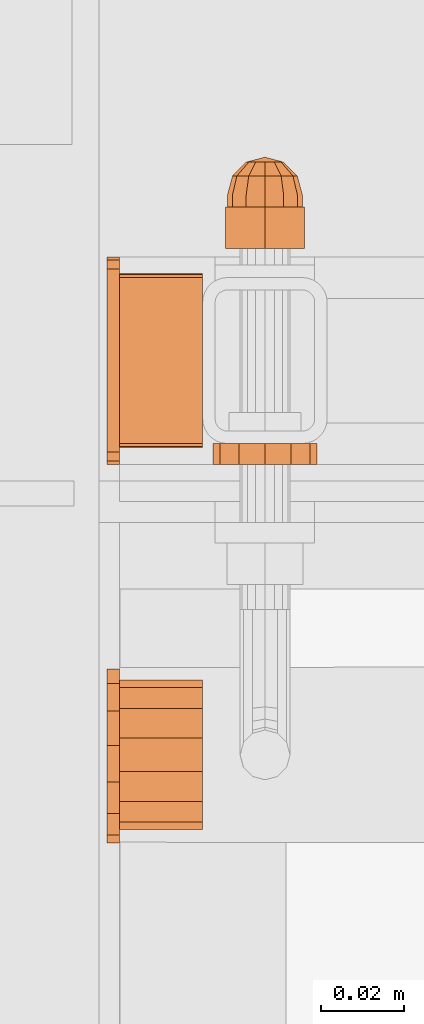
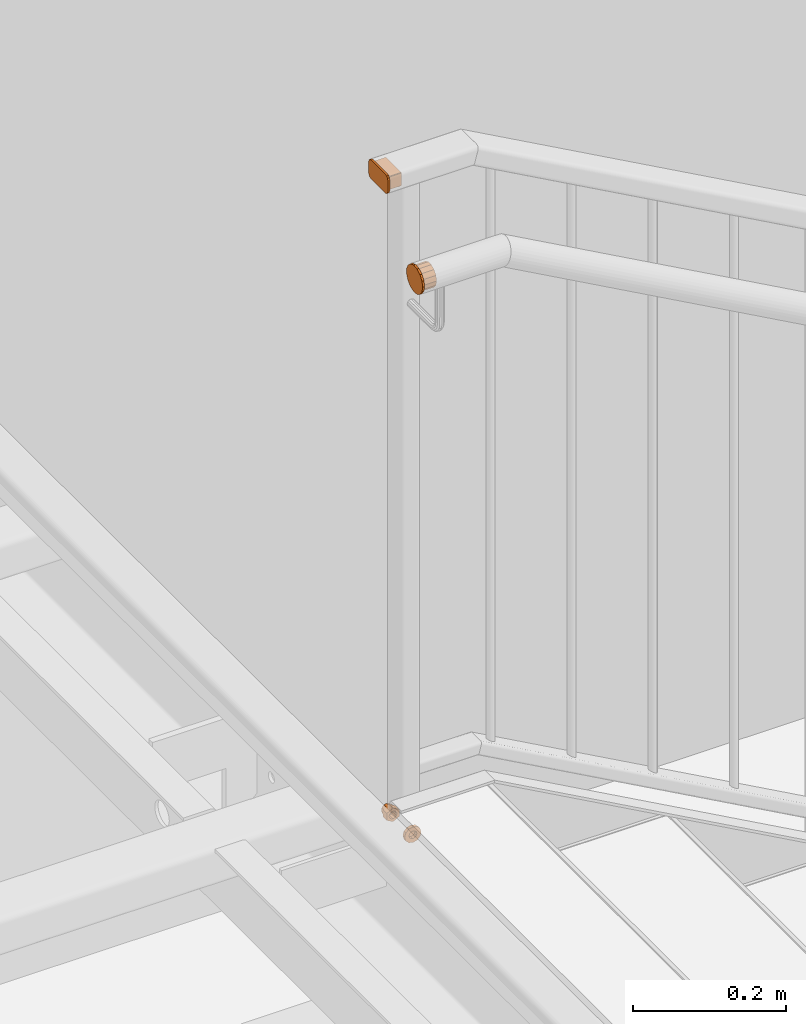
# One storey, part 105 of 116: 4 proxies.
"""IFC2X3 building model written with IfcOpenShell, lengths in millimetres."""

from ifc_helpers import new_model, entity, si_unit, converted_unit, origin_with_axes, place, context, project, spatial, faceted_brep, material, element, save


model = new_model("IFC2X3")

# Units and contexts
model_context = context("Model", 3, precision=1e-09, world=origin_with_axes())
ifc_project = project(units=[si_unit("LENGTHUNIT", "METRE", prefix="MILLI"), si_unit("AREAUNIT", "SQUARE_METRE"), si_unit("VOLUMEUNIT", "CUBIC_METRE"), converted_unit("PLANEANGLEUNIT", "DEGREE", entity("IfcPlaneAngleMeasure", 0.01745329), si_unit("PLANEANGLEUNIT", "RADIAN"), dimensions=[0, 0, 0, 0, 0, 0, 0])], contexts=[model_context])

# Site, building, storey
site_placement = place(None, origin_with_axes())
site = spatial("IfcSite", under=ifc_project, at=site_placement, Name="Site", CompositionType="ELEMENT")
building_placement = place(site_placement, origin_with_axes())
building = spatial("IfcBuilding", under=site, at=building_placement, Name="Struktur 1", CompositionType="ELEMENT")
storey_placement = place(building_placement, origin_with_axes())
storey = spatial("IfcBuildingStorey", under=building, at=storey_placement, Name="Default Storey", CompositionType="ELEMENT", Elevation=0.0)

# Proxies
ifc_material = material(Name="Kein")
proxy_1_placement = place(None, origin_with_axes())
element("IfcBuildingElementProxy", 1, at=proxy_1_placement, inside=storey, material=ifc_material, ObjectType="-", context=model_context, shape_type="Brep", body=[
    faceted_brep([(58261.049134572, 10492.357883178, -68.0), (58261.049134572, 10482.357883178, -68.0), (58261.852982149, 10482.357883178, -71.0), (58261.852982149, 10492.357883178, -71.0), (58264.049134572, 10482.357883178, -73.196152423), (58264.049134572, 10492.357883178, -73.196152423), (58261.852982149, 10492.357883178, -65.0), (58261.852982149, 10482.357883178, -65.0), (58257.569265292, 10482.357883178, -62.526794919), (58257.569265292, 10482.357883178, -73.473205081), (58267.049134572, 10482.357883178, -78.946410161), (58276.529003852, 10482.357883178, -73.473205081), (58276.529003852, 10482.357883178, -62.526794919), (58267.049134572, 10482.357883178, -57.053589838), (58264.049134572, 10482.357883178, -62.803847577), (58267.049134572, 10482.357883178, -62.0), (58270.049134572, 10482.357883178, -62.803847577), (58272.245286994, 10482.357883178, -65.0), (58273.049134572, 10482.357883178, -68.0), (58272.245286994, 10482.357883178, -71.0), (58270.049134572, 10482.357883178, -73.196152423), (58267.049134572, 10482.357883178, -74.0), (58257.569265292, 10492.357883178, -62.526794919), (58267.049134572, 10492.357883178, -57.053589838), (58276.529003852, 10492.357883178, -62.526794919), (58276.529003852, 10492.357883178, -73.473205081), (58267.049134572, 10492.357883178, -78.946410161), (58257.569265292, 10492.357883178, -73.473205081), (58264.049134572, 10492.357883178, -62.803847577), (58267.049134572, 10492.357883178, -74.0), (58267.049134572, 10492.357883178, -62.0), (58270.049134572, 10492.357883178, -73.196152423), (58270.049134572, 10492.357883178, -62.803847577), (58272.245286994, 10492.357883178, -71.0), (58272.245286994, 10492.357883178, -65.0), (58273.049134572, 10492.357883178, -68.0)], [[[0, 1, 2, 3]], [[3, 2, 4, 5]], [[1, 0, 6, 7]], [[8, 9, 10, 11, 12, 13], [7, 14, 15, 16, 17, 18, 19, 20, 21, 4, 2, 1]], [[22, 23, 24, 25, 26, 27]], [[7, 6, 28, 14]], [[22, 27, 9, 8]], [[5, 4, 21, 29]], [[10, 9, 27, 26]], [[14, 28, 30, 15]], [[23, 22, 8, 13]], [[29, 21, 20, 31]], [[11, 10, 26, 25]], [[15, 30, 32, 16]], [[24, 23, 13, 12]], [[31, 20, 19, 33]], [[25, 24, 12, 11]], [[16, 32, 34, 17]], [[33, 19, 18, 35]], [[17, 34, 35, 18]]]),
    faceted_brep([(58267.049134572, 10495.357883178, -59.0), (58267.049134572, 10492.357883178, -59.0), (58271.549134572, 10492.357883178, -60.205771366), (58271.549134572, 10495.357883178, -60.205771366), (58262.549134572, 10495.357883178, -60.205771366), (58262.549134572, 10492.357883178, -60.205771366), (58262.549134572, 10495.357883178, -75.794228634), (58259.254905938, 10495.357883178, -72.5), (58258.049134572, 10495.357883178, -68.0), (58259.254905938, 10495.357883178, -63.5), (58274.843363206, 10495.357883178, -63.5), (58276.049134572, 10495.357883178, -68.0), (58274.843363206, 10495.357883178, -72.5), (58271.549134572, 10495.357883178, -75.794228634), (58267.049134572, 10495.357883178, -77.0), (58271.549134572, 10492.357883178, -75.794228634), (58274.843363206, 10492.357883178, -72.5), (58276.049134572, 10492.357883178, -68.0), (58274.843363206, 10492.357883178, -63.5), (58259.254905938, 10492.357883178, -63.5), (58258.049134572, 10492.357883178, -68.0), (58259.254905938, 10492.357883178, -72.5), (58262.549134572, 10492.357883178, -75.794228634), (58267.049134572, 10492.357883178, -77.0)], [[[0, 1, 2, 3]], [[1, 0, 4, 5]], [[6, 7, 8, 9, 4, 0, 3, 10, 11, 12, 13, 14]], [[15, 16, 17, 18, 2, 1, 5, 19, 20, 21, 22, 23]], [[3, 2, 18, 10]], [[5, 4, 9, 19]], [[10, 18, 17, 11]], [[19, 9, 8, 20]], [[22, 6, 14, 23]], [[7, 21, 20, 8]], [[6, 22, 21, 7]], [[11, 17, 16, 12]], [[23, 14, 13, 15]], [[12, 16, 15, 13]]]),
    faceted_brep([(58260.299134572, 10499.857883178, -64.102885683), (58259.254905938, 10495.357883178, -63.5), (58262.549134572, 10495.357883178, -60.205771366), (58263.152020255, 10499.857883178, -61.25), (58271.549134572, 10495.357883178, -75.794228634), (58274.843363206, 10495.357883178, -72.5), (58276.049134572, 10495.357883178, -68.0), (58274.843363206, 10495.357883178, -63.5), (58271.549134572, 10495.357883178, -60.205771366), (58267.049134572, 10495.357883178, -59.0), (58258.049134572, 10495.357883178, -68.0), (58259.254905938, 10495.357883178, -72.5), (58262.549134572, 10495.357883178, -75.794228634), (58267.049134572, 10495.357883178, -77.0), (58267.049134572, 10499.857883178, -60.205771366), (58262.549134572, 10503.152111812, -68.0), (58259.254905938, 10499.857883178, -68.0), (58263.152020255, 10503.152111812, -65.75), (58270.946248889, 10499.857883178, -61.25), (58264.799134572, 10503.152111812, -64.102885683), (58263.152020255, 10503.152111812, -70.25), (58260.299134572, 10499.857883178, -71.897114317), (58267.049134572, 10503.152111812, -63.5), (58267.049134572, 10504.357883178, -68.0), (58264.799134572, 10503.152111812, -71.897114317), (58263.152020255, 10499.857883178, -74.75), (58267.049134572, 10499.857883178, -75.794228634), (58273.799134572, 10499.857883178, -64.102885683), (58269.299134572, 10503.152111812, -64.102885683), (58267.049134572, 10503.152111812, -72.5), (58270.946248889, 10499.857883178, -74.75), (58269.299134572, 10503.152111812, -71.897114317), (58274.843363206, 10499.857883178, -68.0), (58270.946248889, 10503.152111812, -65.75), (58273.799134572, 10499.857883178, -71.897114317), (58270.946248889, 10503.152111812, -70.25), (58271.549134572, 10503.152111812, -68.0)], [[[0, 1, 2, 3]], [[4, 5, 6, 7, 8, 9, 2, 1, 10, 11, 12, 13]], [[3, 2, 9, 14]], [[15, 16, 0, 17]], [[1, 0, 16, 10]], [[14, 9, 8, 18]], [[17, 0, 3, 19]], [[16, 15, 20, 21]], [[19, 3, 14, 22]], [[17, 23, 15]], [[24, 25, 21, 20]], [[15, 23, 20]], [[12, 25, 26, 13]], [[11, 21, 25, 12]], [[10, 16, 21, 11]], [[18, 8, 7, 27]], [[22, 14, 18, 28]], [[19, 23, 17]], [[29, 26, 25, 24]], [[20, 23, 24]], [[22, 23, 19]], [[13, 26, 30, 4]], [[26, 29, 31, 30]], [[24, 23, 29]], [[27, 7, 6, 32]], [[28, 18, 27, 33]], [[28, 23, 22]], [[29, 23, 31]], [[33, 23, 28]], [[4, 30, 34, 5]], [[30, 31, 35, 34]], [[31, 23, 35]], [[32, 6, 5, 34]], [[33, 27, 32, 36]], [[36, 23, 33]], [[35, 23, 36]], [[34, 35, 36, 32]]]),
])
proxy_2_placement = place(None, origin_with_axes())
element("IfcBuildingElementProxy", 2, at=proxy_2_placement, inside=storey, material=ifc_material, ObjectType="-", context=model_context, shape_type="Brep", body=[
    faceted_brep([(58264.049134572, 10435.357883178, -73.196152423), (58267.049134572, 10435.357883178, -74.0), (58270.049134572, 10435.357883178, -73.196152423), (58272.245286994, 10435.357883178, -71.0), (58273.049134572, 10435.357883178, -68.0), (58272.245286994, 10435.357883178, -65.0), (58270.049134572, 10435.357883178, -62.803847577), (58267.049134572, 10435.357883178, -62.0), (58264.049134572, 10435.357883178, -62.803847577), (58261.852982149, 10435.357883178, -65.0), (58261.049134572, 10435.357883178, -68.0), (58261.852982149, 10435.357883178, -71.0), (58256.223817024, 10430.357883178, -74.25), (58256.223817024, 10435.357883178, -74.25), (58260.799134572, 10435.357883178, -78.825317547), (58260.799134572, 10430.357883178, -78.825317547), (58267.049134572, 10430.357883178, -80.5), (58273.299134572, 10430.357883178, -78.825317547), (58277.874452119, 10430.357883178, -74.25), (58279.549134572, 10430.357883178, -68.0), (58277.874452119, 10430.357883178, -61.75), (58273.299134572, 10430.357883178, -57.174682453), (58267.049134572, 10430.357883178, -55.5), (58260.799134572, 10430.357883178, -57.174682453), (58256.223817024, 10430.357883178, -61.75), (58254.549134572, 10430.357883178, -68.0), (58261.049134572, 10430.357883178, -68.0), (58261.852982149, 10430.357883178, -65.0), (58264.049134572, 10430.357883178, -62.803847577), (58267.049134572, 10430.357883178, -62.0), (58270.049134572, 10430.357883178, -62.803847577), (58272.245286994, 10430.357883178, -65.0), (58273.049134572, 10430.357883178, -68.0), (58272.245286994, 10430.357883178, -71.0), (58270.049134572, 10430.357883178, -73.196152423), (58267.049134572, 10430.357883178, -74.0), (58264.049134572, 10430.357883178, -73.196152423), (58261.852982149, 10430.357883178, -71.0), (58254.549134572, 10435.357883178, -68.0), (58267.049134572, 10435.357883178, -80.5), (58256.223817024, 10435.357883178, -61.75), (58273.299134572, 10435.357883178, -78.825317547), (58260.799134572, 10435.357883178, -57.174682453), (58277.874452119, 10435.357883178, -74.25), (58267.049134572, 10435.357883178, -55.5), (58279.549134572, 10435.357883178, -68.0), (58273.299134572, 10435.357883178, -57.174682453), (58277.874452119, 10435.357883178, -61.75)], [[[0, 1, 2, 3, 4, 5, 6, 7, 8, 9, 10, 11]], [[12, 13, 14, 15]], [[12, 15, 16, 17, 18, 19, 20, 21, 22, 23, 24, 25], [26, 27, 28, 29, 30, 31, 32, 33, 34, 35, 36, 37]], [[11, 37, 36, 0]], [[13, 12, 25, 38]], [[37, 11, 10, 26]], [[0, 36, 35, 1]], [[15, 14, 39, 16]], [[38, 25, 24, 40]], [[26, 10, 9, 27]], [[1, 35, 34, 2]], [[16, 39, 41, 17]], [[40, 24, 23, 42]], [[27, 9, 8, 28]], [[33, 3, 2, 34]], [[17, 41, 43, 18]], [[3, 33, 32, 4]], [[42, 23, 22, 44]], [[28, 8, 7, 29]], [[31, 5, 4, 32]], [[18, 43, 45, 19]], [[6, 30, 29, 7]], [[5, 31, 30, 6]], [[44, 22, 21, 46]], [[19, 45, 47, 20]], [[46, 21, 20, 47]]]),
])
proxy_3_placement = place(None, origin_with_axes())
element("IfcBuildingElementProxy", 3, at=proxy_3_placement, inside=storey, material=ifc_material, ObjectType="-", context=model_context, shape_type="Brep", body=[
    faceted_brep([(58252.049134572, 10434.357883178, 971.0), (58252.049134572, 10434.357883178, 989.0), (58232.049134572, 10434.357883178, 989.0), (58232.049134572, 10434.357883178, 971.0), (58252.049134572, 10434.625832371, 990.0), (58232.049134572, 10434.625832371, 990.0), (58232.049134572, 10435.357883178, 990.732050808), (58252.049134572, 10435.357883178, 990.732050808), (58252.049134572, 10436.357883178, 991.0), (58232.049134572, 10436.357883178, 991.0), (58232.049134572, 10434.625832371, 970.0), (58252.049134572, 10434.625832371, 970.0), (58232.049134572, 10435.357883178, 969.267949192), (58252.049134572, 10435.357883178, 969.267949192), (58252.049134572, 10436.357883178, 969.0), (58252.049134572, 10474.357883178, 969.0), (58252.049134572, 10475.357883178, 969.267949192), (58252.049134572, 10476.089933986, 970.0), (58252.049134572, 10476.357883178, 971.0), (58252.049134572, 10476.357883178, 989.0), (58252.049134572, 10476.089933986, 990.0), (58252.049134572, 10475.357883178, 990.732050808), (58252.049134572, 10474.357883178, 991.0), (58252.049134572, 10438.357883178, 987.0), (58252.049134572, 10472.357883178, 987.0), (58252.049134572, 10472.357883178, 973.0), (58252.049134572, 10438.357883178, 973.0), (58232.049134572, 10474.357883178, 991.0), (58232.049134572, 10475.357883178, 990.732050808), (58232.049134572, 10476.089933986, 990.0), (58232.049134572, 10476.357883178, 989.0), (58232.049134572, 10476.357883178, 971.0), (58232.049134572, 10476.089933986, 970.0), (58232.049134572, 10475.357883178, 969.267949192), (58232.049134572, 10474.357883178, 969.0), (58232.049134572, 10436.357883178, 969.0), (58232.049134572, 10438.357883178, 987.0), (58232.049134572, 10438.357883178, 973.0), (58232.049134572, 10472.357883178, 973.0), (58232.049134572, 10472.357883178, 987.0)], [[[0, 1, 2, 3]], [[2, 1, 4, 5]], [[6, 7, 8, 9]], [[5, 4, 7, 6]], [[0, 3, 10, 11]], [[11, 10, 12, 13]], [[7, 4, 1, 0, 11, 13, 14, 15, 16, 17, 18, 19, 20, 21, 22, 8], [23, 24, 25, 26]], [[3, 2, 5, 6, 9, 27, 28, 29, 30, 31, 32, 33, 34, 35, 12, 10], [36, 37, 38, 39]], [[21, 28, 27, 22]], [[8, 22, 27, 9]], [[37, 36, 23, 26]], [[28, 21, 20, 29]], [[13, 12, 35, 14]], [[26, 25, 38, 37]], [[15, 14, 35, 34]], [[15, 34, 33, 16]], [[36, 39, 24, 23]], [[29, 20, 19, 30]], [[16, 33, 32, 17]], [[25, 24, 39, 38]], [[19, 18, 31, 30]], [[17, 32, 31, 18]]]),
    faceted_brep([(58229.049134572, 10436.357883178, 965.0), (58232.049134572, 10436.357883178, 965.0), (58232.049134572, 10433.357883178, 965.803847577), (58229.049134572, 10433.357883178, 965.803847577), (58232.049134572, 10431.161730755, 968.0), (58229.049134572, 10431.161730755, 968.0), (58232.049134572, 10474.357883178, 965.0), (58229.049134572, 10474.357883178, 965.0), (58229.049134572, 10477.357883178, 965.803847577), (58232.049134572, 10477.357883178, 965.803847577), (58229.049134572, 10479.554035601, 968.0), (58232.049134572, 10479.554035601, 968.0), (58232.049134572, 10430.357883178, 971.0), (58232.049134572, 10480.357883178, 971.0), (58232.049134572, 10480.357883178, 989.0), (58232.049134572, 10479.554035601, 992.0), (58232.049134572, 10477.357883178, 994.196152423), (58232.049134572, 10474.357883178, 995.0), (58232.049134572, 10436.357883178, 995.0), (58232.049134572, 10433.357883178, 994.196152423), (58232.049134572, 10431.161730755, 992.0), (58232.049134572, 10430.357883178, 989.0), (58229.049134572, 10480.357883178, 971.0), (58229.049134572, 10430.357883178, 971.0), (58229.049134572, 10430.357883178, 989.0), (58229.049134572, 10431.161730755, 992.0), (58229.049134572, 10433.357883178, 994.196152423), (58229.049134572, 10436.357883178, 995.0), (58229.049134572, 10474.357883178, 995.0), (58229.049134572, 10477.357883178, 994.196152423), (58229.049134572, 10479.554035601, 992.0), (58229.049134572, 10480.357883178, 989.0)], [[[0, 1, 2, 3]], [[3, 2, 4, 5]], [[6, 7, 8, 9]], [[9, 8, 10, 11]], [[12, 4, 2, 1, 6, 9, 11, 13, 14, 15, 16, 17, 18, 19, 20, 21]], [[0, 7, 6, 1]], [[22, 10, 8, 7, 0, 3, 5, 23, 24, 25, 26, 27, 28, 29, 30, 31]], [[5, 4, 12, 23]], [[12, 21, 24, 23]], [[11, 10, 22, 13]], [[19, 26, 25, 20]], [[20, 25, 24, 21]], [[26, 19, 18, 27]], [[22, 31, 14, 13]], [[18, 17, 28, 27]], [[14, 31, 30, 15]], [[16, 29, 28, 17]], [[15, 30, 29, 16]]]),
])
proxy_4_placement = place(None, origin_with_axes())
element("IfcBuildingElementProxy", 4, at=proxy_4_placement, inside=storey, material=ifc_material, ObjectType="-", context=model_context, shape_type="Brep", body=[
    faceted_brep([(58232.049134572, 10339.157883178, 873.790663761), (58232.049134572, 10340.990719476, 882.413480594), (58229.049134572, 10340.990719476, 882.413480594), (58229.049134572, 10339.157883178, 873.790663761), (58232.049134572, 10370.957883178, 855.430925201), (58232.049134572, 10377.509043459, 861.329616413), (58232.049134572, 10381.094612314, 869.382935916), (58232.049134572, 10381.094612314, 878.198391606), (58232.049134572, 10377.509043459, 886.25171111), (58232.049134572, 10370.957883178, 892.150402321), (58232.049134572, 10362.573886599, 894.874527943), (58232.049134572, 10353.806722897, 893.953061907), (58232.049134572, 10346.172314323, 889.545334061), (58232.049134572, 10340.990719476, 865.167846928), (58232.049134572, 10346.172314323, 858.035993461), (58232.049134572, 10353.806722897, 853.628265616), (58232.049134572, 10362.573886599, 852.706799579), (58229.049134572, 10340.990719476, 865.167846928), (58229.049134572, 10346.172314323, 889.545334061), (58229.049134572, 10377.509043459, 886.25171111), (58229.049134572, 10381.094612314, 878.198391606), (58229.049134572, 10381.094612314, 869.382935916), (58229.049134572, 10377.509043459, 861.329616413), (58229.049134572, 10370.957883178, 855.430925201), (58229.049134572, 10362.573886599, 852.706799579), (58229.049134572, 10353.806722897, 853.628265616), (58229.049134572, 10346.172314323, 858.035993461), (58229.049134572, 10353.806722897, 893.953061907), (58229.049134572, 10362.573886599, 894.874527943), (58229.049134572, 10370.957883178, 892.150402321)], [[[0, 1, 2, 3]], [[4, 5, 6, 7, 8, 9, 10, 11, 12, 1, 0, 13, 14, 15, 16]], [[3, 17, 13, 0]], [[1, 12, 18, 2]], [[19, 20, 21, 22, 23, 24, 25, 26, 17, 3, 2, 18, 27, 28, 29]], [[17, 26, 14, 13]], [[12, 11, 27, 18]], [[26, 25, 15, 14]], [[11, 10, 28, 27]], [[25, 24, 16, 15]], [[10, 9, 29, 28]], [[6, 5, 22, 21]], [[24, 23, 4, 16]], [[9, 8, 19, 29]], [[21, 20, 7, 6]], [[8, 7, 20, 19]], [[5, 4, 23, 22]]]),
    faceted_brep([(58252.049134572, 10364.363259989, 856.241961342), (58252.049134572, 10371.580699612, 859.717697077), (58252.049134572, 10376.5753228, 865.980756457), (58252.049134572, 10378.357883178, 873.790663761), (58252.049134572, 10376.5753228, 881.600571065), (58252.049134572, 10371.580699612, 887.863630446), (58252.049134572, 10364.363259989, 891.33936618), (58252.049134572, 10356.352506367, 891.33936618), (58252.049134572, 10349.135066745, 887.863630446), (58252.049134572, 10344.140443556, 881.600571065), (58252.049134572, 10342.357883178, 873.790663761), (58252.049134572, 10344.140443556, 865.980756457), (58252.049134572, 10349.135066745, 859.717697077), (58252.049134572, 10356.352506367, 856.241961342), (58252.049134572, 10373.639723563, 866.81981618), (58252.049134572, 10368.878854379, 861.445905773), (58252.049134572, 10362.165933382, 858.90003065), (58252.049134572, 10355.038809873, 859.765420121), (58252.049134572, 10349.130221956, 863.843823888), (58252.049134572, 10345.793755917, 870.200928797), (58252.049134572, 10345.793755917, 877.380398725), (58252.049134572, 10349.130221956, 883.737503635), (58252.049134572, 10355.038809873, 887.815907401), (58252.049134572, 10362.165933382, 888.681296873), (58252.049134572, 10368.878854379, 886.13542175), (58252.049134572, 10373.639723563, 880.761511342), (58252.049134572, 10375.357883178, 873.790663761), (58232.049134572, 10364.363259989, 856.241961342), (58232.049134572, 10371.580699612, 859.717697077), (58232.049134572, 10362.165933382, 858.90003065), (58232.049134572, 10368.878854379, 861.445905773), (58232.049134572, 10378.357883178, 873.790663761), (58232.049134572, 10376.5753228, 865.980756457), (58232.049134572, 10356.352506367, 856.241961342), (58232.049134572, 10349.135066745, 859.717697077), (58232.049134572, 10344.140443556, 865.980756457), (58232.049134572, 10342.357883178, 873.790663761), (58232.049134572, 10344.140443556, 881.600571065), (58232.049134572, 10349.135066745, 887.863630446), (58232.049134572, 10356.352506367, 891.33936618), (58232.049134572, 10364.363259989, 891.33936618), (58232.049134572, 10371.580699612, 887.863630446), (58232.049134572, 10376.5753228, 881.600571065), (58232.049134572, 10373.639723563, 866.81981618), (58232.049134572, 10375.357883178, 873.790663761), (58232.049134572, 10373.639723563, 880.761511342), (58232.049134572, 10368.878854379, 886.13542175), (58232.049134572, 10362.165933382, 888.681296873), (58232.049134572, 10355.038809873, 887.815907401), (58232.049134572, 10349.130221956, 883.737503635), (58232.049134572, 10345.793755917, 877.380398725), (58232.049134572, 10345.793755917, 870.200928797), (58232.049134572, 10349.130221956, 863.843823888), (58232.049134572, 10355.038809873, 859.765420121)], [[[0, 1, 2, 3, 4, 5, 6, 7, 8, 9, 10, 11, 12, 13], [14, 15, 16, 17, 18, 19, 20, 21, 22, 23, 24, 25, 26]], [[0, 27, 28, 1]], [[29, 16, 15, 30]], [[31, 32, 28, 27, 33, 34, 35, 36, 37, 38, 39, 40, 41, 42], [43, 44, 45, 46, 47, 48, 49, 50, 51, 52, 53, 29, 30]], [[27, 0, 13, 33]], [[16, 29, 53, 17]], [[32, 2, 1, 28]], [[30, 15, 14, 43]], [[2, 32, 31, 3]], [[33, 13, 12, 34]], [[17, 53, 52, 18]], [[3, 31, 42, 4]], [[43, 14, 26, 44]], [[34, 12, 11, 35]], [[18, 52, 51, 19]], [[4, 42, 41, 5]], [[44, 26, 25, 45]], [[35, 11, 10, 36]], [[19, 51, 50, 20]], [[5, 41, 40, 6]], [[45, 25, 24, 46]], [[36, 10, 9, 37]], [[20, 50, 49, 21]], [[6, 40, 39, 7]], [[46, 24, 23, 47]], [[37, 9, 8, 38]], [[22, 48, 47, 23]], [[21, 49, 48, 22]], [[7, 39, 38, 8]]]),
])

save(model, "model.ifc")
